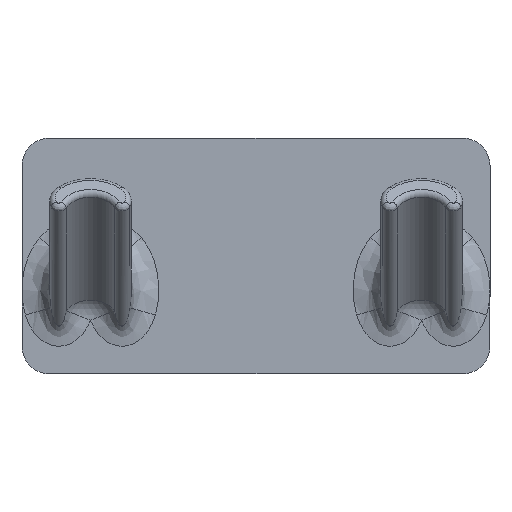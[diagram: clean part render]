
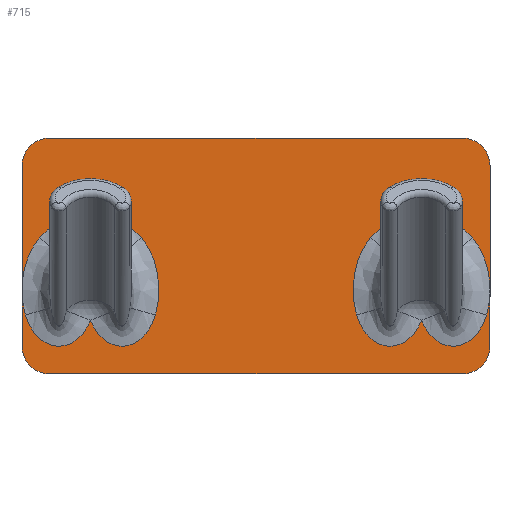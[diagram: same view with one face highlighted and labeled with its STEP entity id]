
A CAD part, top view. The second image highlights one B-rep face of the part: STEP entity #715.
In plain terms, the highlighted planar face has unit normal (0, 0, 1).
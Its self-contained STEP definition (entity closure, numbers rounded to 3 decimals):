
#30=PLANE('',#805);
#39=ELLIPSE('',#807,24.748,18.);
#40=ELLIPSE('',#808,39.184,28.5);
#41=ELLIPSE('',#809,24.748,18.);
#42=ELLIPSE('',#810,17.873,13.);
#43=ELLIPSE('',#811,17.873,13.);
#44=ELLIPSE('',#812,24.748,18.);
#45=ELLIPSE('',#815,24.748,18.);
#46=ELLIPSE('',#816,17.873,13.);
#47=ELLIPSE('',#817,17.873,13.);
#48=ELLIPSE('',#818,24.748,18.);
#49=ELLIPSE('',#819,39.184,28.5);
#50=ELLIPSE('',#820,24.748,18.);
#67=LINE('',#1287,#97);
#68=LINE('',#1289,#98);
#71=LINE('',#1295,#101);
#72=LINE('',#1299,#102);
#73=LINE('',#1312,#103);
#74=LINE('',#1316,#104);
#97=VECTOR('',#993,45.001);
#98=VECTOR('',#994,20.435);
#101=VECTOR('',#999,149.601);
#102=VECTOR('',#1002,45.001);
#103=VECTOR('',#1015,20.435);
#104=VECTOR('',#1018,149.601);
#163=FACE_OUTER_BOUND('',#211,.T.);
#211=EDGE_LOOP('',(#562,#563,#564,#565,#566,#567,#568,#569,#570,#571,#572,
#573,#574,#575,#576,#577,#578,#579,#580,#581,#582,#583));
#275=CIRCLE('',#802,10.);
#277=CIRCLE('',#806,10.);
#278=CIRCLE('',#813,10.);
#279=CIRCLE('',#814,10.);
#327=VERTEX_POINT('',#1277);
#328=VERTEX_POINT('',#1278);
#331=VERTEX_POINT('',#1286);
#332=VERTEX_POINT('',#1288);
#334=VERTEX_POINT('',#1294);
#335=VERTEX_POINT('',#1296);
#336=VERTEX_POINT('',#1298);
#337=VERTEX_POINT('',#1300);
#338=VERTEX_POINT('',#1302);
#339=VERTEX_POINT('',#1304);
#340=VERTEX_POINT('',#1306);
#341=VERTEX_POINT('',#1308);
#342=VERTEX_POINT('',#1311);
#343=VERTEX_POINT('',#1313);
#344=VERTEX_POINT('',#1315);
#345=VERTEX_POINT('',#1318);
#346=VERTEX_POINT('',#1320);
#347=VERTEX_POINT('',#1322);
#348=VERTEX_POINT('',#1324);
#349=VERTEX_POINT('',#1326);
#409=EDGE_CURVE('',#327,#328,#275,.T.);
#413=EDGE_CURVE('',#328,#331,#67,.T.);
#414=EDGE_CURVE('',#331,#332,#68,.T.);
#417=EDGE_CURVE('',#334,#327,#71,.T.);
#418=EDGE_CURVE('',#335,#334,#277,.T.);
#419=EDGE_CURVE('',#335,#336,#72,.T.);
#420=EDGE_CURVE('',#337,#336,#39,.T.);
#421=EDGE_CURVE('',#338,#337,#40,.T.);
#422=EDGE_CURVE('',#339,#338,#41,.T.);
#423=EDGE_CURVE('',#340,#339,#42,.T.);
#424=EDGE_CURVE('',#341,#340,#43,.T.);
#425=EDGE_CURVE('',#336,#341,#44,.T.);
#426=EDGE_CURVE('',#336,#342,#73,.T.);
#427=EDGE_CURVE('',#343,#342,#278,.T.);
#428=EDGE_CURVE('',#343,#344,#74,.T.);
#429=EDGE_CURVE('',#332,#344,#279,.T.);
#430=EDGE_CURVE('',#331,#345,#45,.T.);
#431=EDGE_CURVE('',#345,#346,#46,.T.);
#432=EDGE_CURVE('',#346,#347,#47,.T.);
#433=EDGE_CURVE('',#347,#348,#48,.T.);
#434=EDGE_CURVE('',#348,#349,#49,.T.);
#435=EDGE_CURVE('',#349,#331,#50,.T.);
#562=ORIENTED_EDGE('',*,*,#409,.F.);
#563=ORIENTED_EDGE('',*,*,#417,.F.);
#564=ORIENTED_EDGE('',*,*,#418,.F.);
#565=ORIENTED_EDGE('',*,*,#419,.T.);
#566=ORIENTED_EDGE('',*,*,#420,.F.);
#567=ORIENTED_EDGE('',*,*,#421,.F.);
#568=ORIENTED_EDGE('',*,*,#422,.F.);
#569=ORIENTED_EDGE('',*,*,#423,.F.);
#570=ORIENTED_EDGE('',*,*,#424,.F.);
#571=ORIENTED_EDGE('',*,*,#425,.F.);
#572=ORIENTED_EDGE('',*,*,#426,.T.);
#573=ORIENTED_EDGE('',*,*,#427,.F.);
#574=ORIENTED_EDGE('',*,*,#428,.T.);
#575=ORIENTED_EDGE('',*,*,#429,.F.);
#576=ORIENTED_EDGE('',*,*,#414,.F.);
#577=ORIENTED_EDGE('',*,*,#430,.T.);
#578=ORIENTED_EDGE('',*,*,#431,.T.);
#579=ORIENTED_EDGE('',*,*,#432,.T.);
#580=ORIENTED_EDGE('',*,*,#433,.T.);
#581=ORIENTED_EDGE('',*,*,#434,.T.);
#582=ORIENTED_EDGE('',*,*,#435,.T.);
#583=ORIENTED_EDGE('',*,*,#413,.F.);
#715=ADVANCED_FACE('',(#163),#30,.F.);
#802=AXIS2_PLACEMENT_3D('',#1279,#985,#986);
#805=AXIS2_PLACEMENT_3D('',#1293,#997,#998);
#806=AXIS2_PLACEMENT_3D('',#1297,#1000,#1001);
#807=AXIS2_PLACEMENT_3D('',#1301,#1003,#1004);
#808=AXIS2_PLACEMENT_3D('',#1303,#1005,#1006);
#809=AXIS2_PLACEMENT_3D('',#1305,#1007,#1008);
#810=AXIS2_PLACEMENT_3D('',#1307,#1009,#1010);
#811=AXIS2_PLACEMENT_3D('',#1309,#1011,#1012);
#812=AXIS2_PLACEMENT_3D('',#1310,#1013,#1014);
#813=AXIS2_PLACEMENT_3D('',#1314,#1016,#1017);
#814=AXIS2_PLACEMENT_3D('',#1317,#1019,#1020);
#815=AXIS2_PLACEMENT_3D('',#1319,#1021,#1022);
#816=AXIS2_PLACEMENT_3D('',#1321,#1023,#1024);
#817=AXIS2_PLACEMENT_3D('',#1323,#1025,#1026);
#818=AXIS2_PLACEMENT_3D('',#1325,#1027,#1028);
#819=AXIS2_PLACEMENT_3D('',#1327,#1029,#1030);
#820=AXIS2_PLACEMENT_3D('',#1328,#1031,#1032);
#985=DIRECTION('center_axis',(0.,0.,
-1.));
#986=DIRECTION('ref_axis',(0.707,0.707,0.));
#993=DIRECTION('',(0.,-1.,0.));
#994=DIRECTION('',(0.,-1.,0.));
#997=DIRECTION('center_axis',(0.,0.,
-1.));
#998=DIRECTION('ref_axis',(0.,1.,0.));
#999=DIRECTION('',(1.,0.,0.));
#1000=DIRECTION('center_axis',(0.,0.,
-1.));
#1001=DIRECTION('ref_axis',(-0.707,0.707,0.));
#1002=DIRECTION('',(0.,-1.,0.));
#1003=DIRECTION('center_axis',(0.,0.,
1.));
#1004=DIRECTION('ref_axis',(0.,-1.,0.));
#1005=DIRECTION('center_axis',(0.,0.,
1.));
#1006=DIRECTION('ref_axis',(0.,1.,0.));
#1007=DIRECTION('center_axis',(0.,0.,
1.));
#1008=DIRECTION('ref_axis',(0.,-1.,0.));
#1009=DIRECTION('center_axis',(0.,0.,
1.));
#1010=DIRECTION('ref_axis',(0.,-1.,0.));
#1011=DIRECTION('center_axis',(0.,0.,
1.));
#1012=DIRECTION('ref_axis',(0.,-1.,0.));
#1013=DIRECTION('center_axis',(0.,0.,
1.));
#1014=DIRECTION('ref_axis',(0.,-1.,0.));
#1015=DIRECTION('',(0.,-1.,0.));
#1016=DIRECTION('center_axis',(0.,0.,
-1.));
#1017=DIRECTION('ref_axis',(-0.707,-0.707,0.));
#1018=DIRECTION('',(1.,0.,0.));
#1019=DIRECTION('center_axis',(0.,0.,
-1.));
#1020=DIRECTION('ref_axis',(0.707,-0.707,0.));
#1021=DIRECTION('center_axis',(0.,0.,
-1.));
#1022=DIRECTION('ref_axis',(0.,-1.,0.));
#1023=DIRECTION('center_axis',(0.,0.,
-1.));
#1024=DIRECTION('ref_axis',(0.,-1.,0.));
#1025=DIRECTION('center_axis',(0.,0.,
-1.));
#1026=DIRECTION('ref_axis',(0.,-1.,0.));
#1027=DIRECTION('center_axis',(0.,0.,
-1.));
#1028=DIRECTION('ref_axis',(0.,-1.,0.));
#1029=DIRECTION('center_axis',(0.,0.,
-1.));
#1030=DIRECTION('ref_axis',(0.,1.,0.));
#1031=DIRECTION('center_axis',(0.,0.,
-1.));
#1032=DIRECTION('ref_axis',(0.,-1.,0.));
#1277=CARTESIAN_POINT('',(84.801,88.435,-7.));
#1278=CARTESIAN_POINT('',(94.801,78.435,-7.));
#1279=CARTESIAN_POINT('Origin',(84.801,78.435,-7.));
#1286=CARTESIAN_POINT('',(94.801,33.435,-7.));
#1287=CARTESIAN_POINT('',(94.801,40.5,-7.));
#1288=CARTESIAN_POINT('',(94.801,13.,-7.));
#1289=CARTESIAN_POINT('',(94.801,40.5,-7.));
#1293=CARTESIAN_POINT('Origin',(-30.,13.,-7.));
#1294=CARTESIAN_POINT('',(-64.801,88.435,-7.));
#1295=CARTESIAN_POINT('',(-74.801,88.435,-7.));
#1296=CARTESIAN_POINT('',(-74.801,78.435,-7.));
#1297=CARTESIAN_POINT('Origin',(-64.801,78.435,-7.));
#1298=CARTESIAN_POINT('',(-74.801,33.435,-7.));
#1299=CARTESIAN_POINT('',(-74.801,40.5,-7.));
#1300=CARTESIAN_POINT('',(-68.459,52.29,-7.));
#1301=CARTESIAN_POINT('Origin',(-56.801,33.435,-7.));
#1302=CARTESIAN_POINT('',(-31.541,52.29,-7.));
#1303=CARTESIAN_POINT('Origin',(-50.,22.436,-7.));
#1304=CARTESIAN_POINT('',(-26.465,24.317,-7.));
#1305=CARTESIAN_POINT('Origin',(-43.199,33.435,-7.));
#1306=CARTESIAN_POINT('',(-50.,22.436,-7.));
#1307=CARTESIAN_POINT('Origin',(-38.551,30.902,-7.));
#1308=CARTESIAN_POINT('',(-73.535,24.317,-7.));
#1309=CARTESIAN_POINT('Origin',(-61.449,30.902,-7.));
#1310=CARTESIAN_POINT('Origin',(-56.801,33.435,-7.));
#1311=CARTESIAN_POINT('',(-74.801,13.,-7.));
#1312=CARTESIAN_POINT('',(-74.801,40.5,-7.));
#1313=CARTESIAN_POINT('',(-64.801,3.,-7.));
#1314=CARTESIAN_POINT('Origin',(-64.801,13.,-7.));
#1315=CARTESIAN_POINT('',(84.801,3.,-7.));
#1316=CARTESIAN_POINT('',(-50.,3.,-7.));
#1317=CARTESIAN_POINT('Origin',(84.801,13.,-7.));
#1318=CARTESIAN_POINT('',(93.535,24.317,-7.));
#1319=CARTESIAN_POINT('Origin',(76.801,33.435,-7.));
#1320=CARTESIAN_POINT('',(70.,22.436,-7.));
#1321=CARTESIAN_POINT('Origin',(81.449,30.902,-7.));
#1322=CARTESIAN_POINT('',(46.465,24.317,-7.));
#1323=CARTESIAN_POINT('Origin',(58.551,30.902,-7.));
#1324=CARTESIAN_POINT('',(51.541,52.29,-7.));
#1325=CARTESIAN_POINT('Origin',(63.199,33.435,-7.));
#1326=CARTESIAN_POINT('',(88.459,52.29,-7.));
#1327=CARTESIAN_POINT('Origin',(70.,22.436,-7.));
#1328=CARTESIAN_POINT('Origin',(76.801,33.435,-7.));
